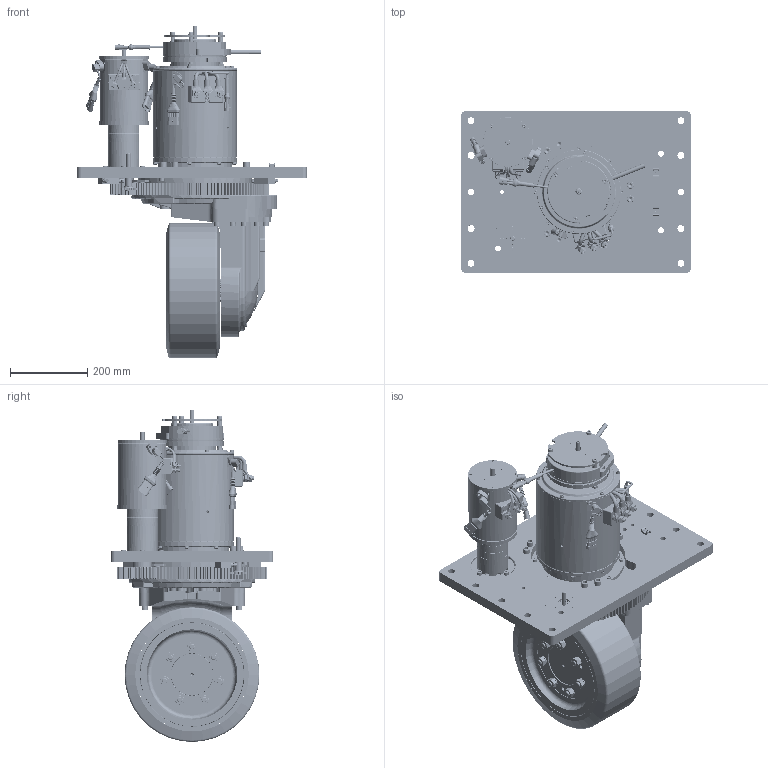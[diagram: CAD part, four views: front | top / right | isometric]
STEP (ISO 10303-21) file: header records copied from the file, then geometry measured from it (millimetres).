
FILE_DESCRIPTION(/* description */ (''),/* implementation_level */ '2;1');
FILE_NAME(/* name */ 'C:\Users\marco bosi\Desktop\WR350FMS-AC-D.200.stp',/* time_stamp */ '2023-09-20T15:24:47+02:00',/* author */ ('marco bosi'),/* organization */ (''),/* preprocessor_version */ 'ST-DEVELOPER v18.1',/* originating_system */ 'Autodesk Inventor 2022',/* authorisation */ '');
FILE_SCHEMA (('AUTOMOTIVE_DESIGN { 1 0 10303 214 3 1 1 }'));
Length unit declared in the file: millimetre
Products named in the file (1): WR350FMS43_Semplifica_1
Bounding box: 595 x 420 x 862 mm (x, y, z)
Volume: 26453825.5 mm3; surface area: 3659364.2 mm2
Topology: 15 solids, 29 shells, 18129 faces, 48021 edges, 31289 vertices
Faces by surface type: plane 13007, cylinder 3119, cone 1076, torus 449, bspline 400, sphere 78
Full cylindrical faces by diameter (mm): 1.5 x2, 1.7 x2, 2 x4, 2.459 x12, 3 x3, 3.15 x2, 3.242 x1, 4 x10, 4.134 x6, 4.8 x8, 4.917 x34, 5 x10, 5.3 x4, 5.5 x12, 6 x49, 6.2 x9, 6.3 x2, 6.4 x16, 6.5 x27, 6.6 x9, 6.647 x18, 7 x8, 7.5 x1, 8 x26, 8.376 x7, 8.4 x1, 8.5 x15, 8.88 x8, 9 x10, 9.5 x10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
Entity records: 640339 total; most frequent: CARTESIAN_POINT 168030, ORIENTED_EDGE 95621, DIRECTION 94064, EDGE_CURVE 47832, AXIS2_PLACEMENT_3D 32491, VERTEX_POINT 31287, LINE 29082, VECTOR 29082
